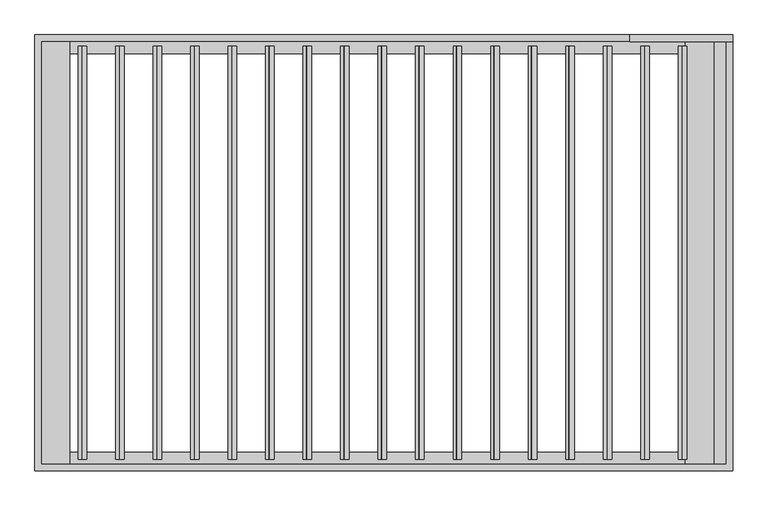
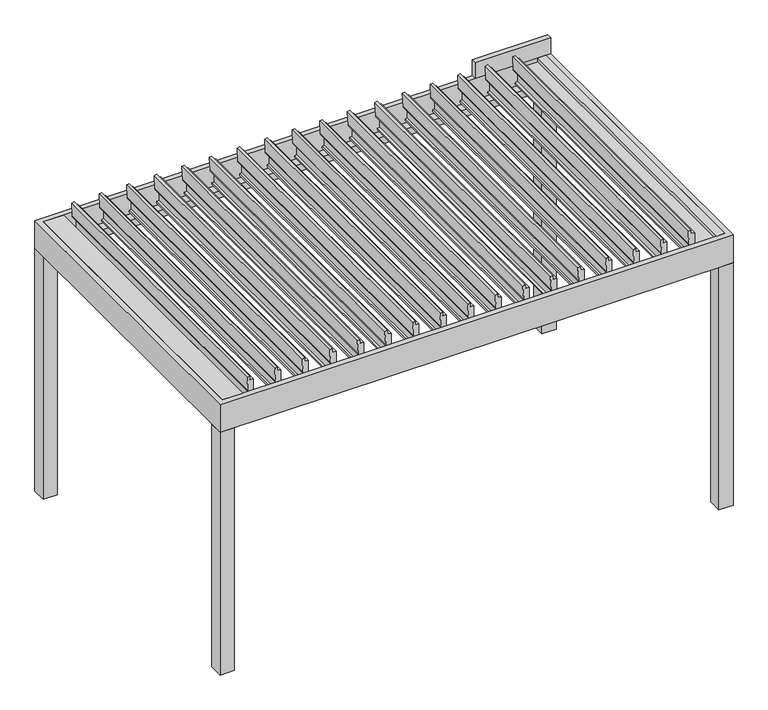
"""IFC4 building model written with IfcOpenShell, lengths in millimetres: proxy geometry, Renson_Algarve_Single : Algarve - Single."""

from ifc_helpers import new_model, si_unit, point, frame, frame_2d, origin, origin_with_axes, place, context, project, spatial, polyline, circle_curve, trimmed, segment, composite_curve, outline, extrude, faceted_brep, source, transform, mapped, element, save


def generic_models_7f1426e4(model_context):
    return source(origin(), model_context, "Body", "SolidModel", [
        extrude(outline(composite_curve([segment(polyline([(2299.449345, 1521.8120717), (2301.8694547, 1494.1500918), (2330.7047051, 1492.7650354), (2327.2673741, 1473.2709621), (2217.2702592, 1478.5545024)]), True, "CONTINUOUS"), segment(trimmed(circle_curve(frame_2d((2217.9899311, 1493.5372282)), 15.0), [point((2217.2702592, 1478.5545024))], [point((2203.2178148, 1490.9325056))], False, "CARTESIAN"), True, "CONTINUOUS"), segment(polyline([(2203.2178148, 1490.9325056), (2199.8271235, 1510.1620717), (2112.0913475, 1510.1620717), (2109.0798901, 1493.083248), (2093.8029196, 1493.8170536), (2091.3536729, 1521.8120717), (2299.449345, 1521.8120717)]), True, "CONTINUOUS")], self_intersect=False)), frame((0.0, -1185.0, 0.0), z_axis=(0.0, 1.0, 0.0), x_axis=(0.0, 0.0, 1.0)), (0.0, 0.0, 1.0), 2370.0),
        extrude(outline(composite_curve([segment(polyline([(2299.449345, 1306.8012669), (2301.8694547, 1279.139287), (2330.7047051, 1277.7542306), (2327.2673741, 1258.2601573), (2217.2702592, 1263.5436977)]), True, "CONTINUOUS"), segment(trimmed(circle_curve(frame_2d((2217.9899311, 1278.5264234)), 15.0), [point((2217.2702592, 1263.5436977))], [point((2203.2178148, 1275.9217008))], False, "CARTESIAN"), True, "CONTINUOUS"), segment(polyline([(2203.2178148, 1275.9217008), (2199.8271235, 1295.1512669), (2112.0913475, 1295.1512669), (2109.0798901, 1278.0724433), (2093.8029196, 1278.8062488), (2091.3536729, 1306.8012669), (2299.449345, 1306.8012669)]), True, "CONTINUOUS")], self_intersect=False)), frame((0.0, -1185.0, 0.0), z_axis=(0.0, 1.0, 0.0), x_axis=(0.0, 0.0, 1.0)), (0.0, 0.0, 1.0), 2370.0),
        extrude(outline(composite_curve([segment(polyline([(2299.449345, 1091.7904622), (2301.8694547, 1064.1284822), (2330.7047051, 1062.7434258), (2327.2673741, 1043.2493526), (2217.2702592, 1048.5328929)]), True, "CONTINUOUS"), segment(trimmed(circle_curve(frame_2d((2217.9899311, 1063.5156187)), 15.0), [point((2217.2702592, 1048.5328929))], [point((2203.2178148, 1060.910896))], False, "CARTESIAN"), True, "CONTINUOUS"), segment(polyline([(2203.2178148, 1060.910896), (2199.8271235, 1080.1404622), (2112.0913475, 1080.1404622), (2109.0798901, 1063.0616385), (2093.8029196, 1063.795444), (2091.3536729, 1091.7904622), (2299.449345, 1091.7904622)]), True, "CONTINUOUS")], self_intersect=False)), frame((0.0, -1185.0, 0.0), z_axis=(0.0, 1.0, 0.0), x_axis=(0.0, 0.0, 1.0)), (0.0, 0.0, 1.0), 2370.0),
        extrude(outline(composite_curve([segment(polyline([(2299.449345, 876.7796574), (2301.8694547, 849.1176774), (2330.7047051, 847.732621), (2327.2673741, 828.2385478), (2217.2702592, 833.5220881)]), True, "CONTINUOUS"), segment(trimmed(circle_curve(frame_2d((2217.9899311, 848.5048139)), 15.0), [point((2217.2702592, 833.5220881))], [point((2203.2178148, 845.9000912))], False, "CARTESIAN"), True, "CONTINUOUS"), segment(polyline([(2203.2178148, 845.9000912), (2199.8271235, 865.1296574), (2112.0913475, 865.1296574), (2109.0798901, 848.0508337), (2093.8029196, 848.7846392), (2091.3536729, 876.7796574), (2299.449345, 876.7796574)]), True, "CONTINUOUS")], self_intersect=False)), frame((0.0, -1185.0, 0.0), z_axis=(0.0, 1.0, 0.0), x_axis=(0.0, 0.0, 1.0)), (0.0, 0.0, 1.0), 2370.0),
        extrude(outline(composite_curve([segment(polyline([(2299.449345, 661.7688526), (2301.8694547, 634.1068726), (2330.7047051, 632.7218162), (2327.2673741, 613.227743), (2217.2702592, 618.5112833)]), True, "CONTINUOUS"), segment(trimmed(circle_curve(frame_2d((2217.9899311, 633.4940091)), 15.0), [point((2217.2702592, 618.5112833))], [point((2203.2178148, 630.8892864))], False, "CARTESIAN"), True, "CONTINUOUS"), segment(polyline([(2203.2178148, 630.8892864), (2199.8271235, 650.1188526), (2112.0913475, 650.1188526), (2109.0798901, 633.0400289), (2093.8029196, 633.7738344), (2091.3536729, 661.7688526), (2299.449345, 661.7688526)]), True, "CONTINUOUS")], self_intersect=False)), frame((0.0, -1185.0, 0.0), z_axis=(0.0, 1.0, 0.0), x_axis=(0.0, 0.0, 1.0)), (0.0, 0.0, 1.0), 2370.0),
        extrude(outline(composite_curve([segment(polyline([(2299.449345, 446.7580478), (2301.8694547, 419.0960679), (2330.7047051, 417.7110115), (2327.2673741, 398.2169382), (2217.2702592, 403.5004785)]), True, "CONTINUOUS"), segment(trimmed(circle_curve(frame_2d((2217.9899311, 418.4832043)), 15.0), [point((2217.2702592, 403.5004785))], [point((2203.2178148, 415.8784817))], False, "CARTESIAN"), True, "CONTINUOUS"), segment(polyline([(2203.2178148, 415.8784817), (2199.8271235, 435.1080478), (2112.0913475, 435.1080478), (2109.0798901, 418.0292241), (2093.8029196, 418.7630297), (2091.3536729, 446.7580478), (2299.449345, 446.7580478)]), True, "CONTINUOUS")], self_intersect=False)), frame((0.0, -1185.0, 0.0), z_axis=(0.0, 1.0, 0.0), x_axis=(0.0, 0.0, 1.0)), (0.0, 0.0, 1.0), 2370.0),
        extrude(outline(composite_curve([segment(polyline([(2299.449345, 231.747243), (2301.8694547, 204.0852631), (2330.7047051, 202.7002067), (2327.2673741, 183.2061334), (2217.2702592, 188.4896737)]), True, "CONTINUOUS"), segment(trimmed(circle_curve(frame_2d((2217.9899311, 203.4723995)), 15.0), [point((2217.2702592, 188.4896737))], [point((2203.2178148, 200.8676769))], False, "CARTESIAN"), True, "CONTINUOUS"), segment(polyline([(2203.2178148, 200.8676769), (2199.8271235, 220.097243), (2112.0913475, 220.097243), (2109.0798901, 203.0184194), (2093.8029196, 203.7522249), (2091.3536729, 231.747243), (2299.449345, 231.747243)]), True, "CONTINUOUS")], self_intersect=False)), frame((0.0, -1185.0, 0.0), z_axis=(0.0, 1.0, 0.0), x_axis=(0.0, 0.0, 1.0)), (0.0, 0.0, 1.0), 2370.0),
        extrude(outline(composite_curve([segment(polyline([(2299.449345, 16.7364383), (2301.8694547, -10.9255417), (2330.7047051, -12.3105981), (2327.2673741, -31.8046713), (2217.2702592, -26.521131)]), True, "CONTINUOUS"), segment(trimmed(circle_curve(frame_2d((2217.9899311, -11.5384052)), 15.0), [point((2217.2702592, -26.521131))], [point((2203.2178148, -14.1431279))], False, "CARTESIAN"), True, "CONTINUOUS"), segment(polyline([(2203.2178148, -14.1431279), (2199.8271235, 5.0864383), (2112.0913475, 5.0864383), (2109.0798901, -11.9923854), (2093.8029196, -11.2585799), (2091.3536729, 16.7364383), (2299.449345, 16.7364383)]), True, "CONTINUOUS")], self_intersect=False)), frame((0.0, -1185.0, 0.0), z_axis=(0.0, 1.0, 0.0), x_axis=(0.0, 0.0, 1.0)), (0.0, 0.0, 1.0), 2370.0),
        extrude(outline(composite_curve([segment(polyline([(2299.449345, -198.2743665), (2301.8694547, -225.9363465), (2330.7047051, -227.3214029), (2327.2673741, -246.8154761), (2217.2702592, -241.5319358)]), True, "CONTINUOUS"), segment(trimmed(circle_curve(frame_2d((2217.9899311, -226.54921)), 15.0), [point((2217.2702592, -241.5319358))], [point((2203.2178148, -229.1539327))], False, "CARTESIAN"), True, "CONTINUOUS"), segment(polyline([(2203.2178148, -229.1539327), (2199.8271235, -209.9243665), (2112.0913475, -209.9243665), (2109.0798901, -227.0031902), (2093.8029196, -226.2693847), (2091.3536729, -198.2743665), (2299.449345, -198.2743665)]), True, "CONTINUOUS")], self_intersect=False)), frame((0.0, -1185.0, 0.0), z_axis=(0.0, 1.0, 0.0), x_axis=(0.0, 0.0, 1.0)), (0.0, 0.0, 1.0), 2370.0),
        extrude(outline(composite_curve([segment(polyline([(2299.449345, -413.2851713), (2301.8694547, -440.9471513), (2330.7047051, -442.3322077), (2327.2673741, -461.8262809), (2217.2702592, -456.5427406)]), True, "CONTINUOUS"), segment(trimmed(circle_curve(frame_2d((2217.9899311, -441.5600148)), 15.0), [point((2217.2702592, -456.5427406))], [point((2203.2178148, -444.1647375))], False, "CARTESIAN"), True, "CONTINUOUS"), segment(polyline([(2203.2178148, -444.1647375), (2199.8271235, -424.9351713), (2112.0913475, -424.9351713), (2109.0798901, -442.013995), (2093.8029196, -441.2801895), (2091.3536729, -413.2851713), (2299.449345, -413.2851713)]), True, "CONTINUOUS")], self_intersect=False)), frame((0.0, -1185.0, 0.0), z_axis=(0.0, 1.0, 0.0), x_axis=(0.0, 0.0, 1.0)), (0.0, 0.0, 1.0), 2370.0),
        extrude(outline(composite_curve([segment(polyline([(2299.449345, -628.2959761), (2301.8694547, -655.9579561), (2330.7047051, -657.3430125), (2327.2673741, -676.8370857), (2217.2702592, -671.5535454)]), True, "CONTINUOUS"), segment(trimmed(circle_curve(frame_2d((2217.9899311, -656.5708196)), 15.0), [point((2217.2702592, -671.5535454))], [point((2203.2178148, -659.1755423))], False, "CARTESIAN"), True, "CONTINUOUS"), segment(polyline([(2203.2178148, -659.1755423), (2199.8271235, -639.9459761), (2112.0913475, -639.9459761), (2109.0798901, -657.0247998), (2093.8029196, -656.2909943), (2091.3536729, -628.2959761), (2299.449345, -628.2959761)]), True, "CONTINUOUS")], self_intersect=False)), frame((0.0, -1185.0, 0.0), z_axis=(0.0, 1.0, 0.0), x_axis=(0.0, 0.0, 1.0)), (0.0, 0.0, 1.0), 2370.0),
        extrude(outline(composite_curve([segment(polyline([(2299.449345, -843.3067809), (2301.8694547, -870.9687608), (2330.7047051, -872.3538172), (2327.2673741, -891.8478905), (2217.2702592, -886.5643502)]), True, "CONTINUOUS"), segment(trimmed(circle_curve(frame_2d((2217.9899311, -871.5816244)), 15.0), [point((2217.2702592, -886.5643502))], [point((2203.2178148, -874.186347))], False, "CARTESIAN"), True, "CONTINUOUS"), segment(polyline([(2203.2178148, -874.186347), (2199.8271235, -854.9567809), (2112.0913475, -854.9567809), (2109.0798901, -872.0356046), (2093.8029196, -871.301799), (2091.3536729, -843.3067809), (2299.449345, -843.3067809)]), True, "CONTINUOUS")], self_intersect=False)), frame((0.0, -1185.0, 0.0), z_axis=(0.0, 1.0, 0.0), x_axis=(0.0, 0.0, 1.0)), (0.0, 0.0, 1.0), 2370.0),
        extrude(outline(composite_curve([segment(polyline([(2299.449345, -1058.3175857), (2301.8694547, -1085.9795656), (2330.7047051, -1087.364622), (2327.2673741, -1106.8586953), (2217.2702592, -1101.5751549)]), True, "CONTINUOUS"), segment(trimmed(circle_curve(frame_2d((2217.9899311, -1086.5924291)), 15.0), [point((2217.2702592, -1101.5751549))], [point((2203.2178148, -1089.1971518))], False, "CARTESIAN"), True, "CONTINUOUS"), segment(polyline([(2203.2178148, -1089.1971518), (2199.8271235, -1069.9675857), (2112.0913475, -1069.9675857), (2109.0798901, -1087.0464093), (2093.8029196, -1086.3126038), (2091.3536729, -1058.3175857), (2299.449345, -1058.3175857)]), True, "CONTINUOUS")], self_intersect=False)), frame((0.0, -1185.0, 0.0), z_axis=(0.0, 1.0, 0.0), x_axis=(0.0, 0.0, 1.0)), (0.0, 0.0, 1.0), 2370.0),
        extrude(outline(composite_curve([segment(polyline([(2299.449345, -1273.3283904), (2301.8694547, -1300.9903704), (2330.7047051, -1302.3754268), (2327.2673741, -1321.8695), (2217.2702592, -1316.5859597)]), True, "CONTINUOUS"), segment(trimmed(circle_curve(frame_2d((2217.9899311, -1301.6032339)), 15.0), [point((2217.2702592, -1316.5859597))], [point((2203.2178148, -1304.2079566))], False, "CARTESIAN"), True, "CONTINUOUS"), segment(polyline([(2203.2178148, -1304.2079566), (2199.8271235, -1284.9783904), (2112.0913475, -1284.9783904), (2109.0798901, -1302.0572141), (2093.8029196, -1301.3234086), (2091.3536729, -1273.3283904), (2299.449345, -1273.3283904)]), True, "CONTINUOUS")], self_intersect=False)), frame((0.0, -1185.0, 0.0), z_axis=(0.0, 1.0, 0.0), x_axis=(0.0, 0.0, 1.0)), (0.0, 0.0, 1.0), 2370.0),
        extrude(outline(composite_curve([segment(polyline([(2299.449345, -1488.3391952), (2301.8694547, -1516.0011752), (2330.7047051, -1517.3862316), (2327.2673741, -1536.8803048), (2217.2702592, -1531.5967645)]), True, "CONTINUOUS"), segment(trimmed(circle_curve(frame_2d((2217.9899311, -1516.6140387)), 15.0), [point((2217.2702592, -1531.5967645))], [point((2203.2178148, -1519.2187614))], False, "CARTESIAN"), True, "CONTINUOUS"), segment(polyline([(2203.2178148, -1519.2187614), (2199.8271235, -1499.9891952), (2112.0913475, -1499.9891952), (2109.0798901, -1517.0680189), (2093.8029196, -1516.3342134), (2091.3536729, -1488.3391952), (2299.449345, -1488.3391952)]), True, "CONTINUOUS")], self_intersect=False)), frame((0.0, -1185.0, 0.0), z_axis=(0.0, 1.0, 0.0), x_axis=(0.0, 0.0, 1.0)), (0.0, 0.0, 1.0), 2370.0),
        extrude(outline(composite_curve([segment(polyline([(2299.449345, 1736.8228765), (2301.8694547, 1709.1608965), (2330.7047051, 1707.7758401), (2327.2673741, 1688.2817669), (2217.2702592, 1693.5653072)]), True, "CONTINUOUS"), segment(trimmed(circle_curve(frame_2d((2217.9899311, 1708.548033)), 15.0), [point((2217.2702592, 1693.5653072))], [point((2203.2178148, 1705.9433103))], False, "CARTESIAN"), True, "CONTINUOUS"), segment(polyline([(2203.2178148, 1705.9433103), (2199.8271235, 1725.1728765), (2112.0913475, 1725.1728765), (2109.0798901, 1708.0940528), (2093.8029196, 1708.8278583), (2091.3536729, 1736.8228765), (2299.449345, 1736.8228765)]), True, "CONTINUOUS")], self_intersect=False)), frame((0.0, -1185.0, 0.0), z_axis=(0.0, 1.0, 0.0), x_axis=(0.0, 0.0, 1.0)), (0.0, 0.0, 1.0), 2370.0),
        extrude(outline(composite_curve([segment(polyline([(2299.449345, -1703.35), (2301.8694547, -1731.01198), (2330.7047051, -1732.3970364), (2327.2673741, -1751.8911096), (2217.2702592, -1746.6075693)]), True, "CONTINUOUS"), segment(trimmed(circle_curve(frame_2d((2217.9899311, -1731.6248435)), 15.0), [point((2217.2702592, -1746.6075693))], [point((2203.2178148, -1734.2295662))], False, "CARTESIAN"), True, "CONTINUOUS"), segment(polyline([(2203.2178148, -1734.2295662), (2199.8271235, -1715.0), (2112.0913475, -1715.0), (2109.0798901, -1732.0788237), (2093.8029196, -1731.3450182), (2091.3536729, -1703.35), (2299.449345, -1703.35)]), True, "CONTINUOUS")], self_intersect=False)), frame((0.0, -1185.0, 0.0), z_axis=(0.0, 1.0, 0.0), x_axis=(0.0, 0.0, 1.0)), (0.0, 0.0, 1.0), 2370.0),
        extrude(outline(polyline([(2168.0, 1960.0), (2230.0, 1960.0), (2230.0, 1896.0), (2198.0, 1896.0), (2198.0, 1730.0), (2168.0, 1730.0), (2168.0, 1960.0)])), frame((0.0, -1210.0, 0.0), z_axis=(0.0, 1.0, 0.0), x_axis=(0.0, 0.0, 1.0)), (0.0, 0.0, 1.0), 2420.0),
        extrude(outline(polyline([(2230.0, -1800.0), (2230.0, -1960.0), (2186.0, -1960.0), (2186.0, -1827.3193336), (2219.1716603, -1824.4171894), (2220.344502, -1800.0), (2230.0, -1800.0)])), frame((0.0, -1210.0, 0.0), z_axis=(0.0, 1.0, 0.0), x_axis=(0.0, 0.0, 1.0)), (0.0, 0.0, 1.0), 2420.0),
        faceted_brep([(1890.0, 1140.0, 2057.0), (1890.0, 1140.0, 2000.0), (1890.0, -1140.0, 2000.0), (1890.0, -1140.0, 2057.0), (2000.0, 1250.0, 2000.0), (2000.0, 1250.0, 2230.0), (2000.0, -1250.0, 2230.0), (2000.0, -1250.0, 2000.0), (1960.0, 1210.0, 2230.0), (1960.0, 1210.0, 2057.0), (1960.0, -1210.0, 2057.0), (1960.0, -1210.0, 2230.0), (-1890.0, -1140.0, 2000.0), (-1890.0, -1140.0, 2057.0), (-2000.0, -1250.0, 2230.0), (-2000.0, -1250.0, 2000.0), (-1960.0, -1210.0, 2057.0), (-1960.0, -1210.0, 2230.0), (-1890.0, 1140.0, 2000.0), (-1890.0, 1140.0, 2057.0), (-2000.0, 1250.0, 2230.0), (-2000.0, 1250.0, 2000.0), (-1960.0, 1210.0, 2057.0), (-1960.0, 1210.0, 2230.0)], [[[0, 1, 2, 3]], [[4, 5, 6, 7]], [[8, 9, 10, 11]], [[3, 2, 12, 13]], [[7, 6, 14, 15]], [[11, 10, 16, 17]], [[13, 12, 18, 19]], [[15, 14, 20, 21]], [[17, 16, 22, 23]], [[9, 22, 16, 10], [3, 13, 19, 0]], [[19, 18, 1, 0]], [[7, 15, 21, 4], [1, 18, 12, 2]], [[21, 20, 5, 4]], [[5, 20, 14, 6], [11, 17, 23, 8]], [[23, 22, 9, 8]]]),
        extrude(outline(polyline([(2000.0, 1250.0), (2000.0, 1140.0), (1890.0, 1140.0), (1890.0, 1250.0), (2000.0, 1250.0)])), origin_with_axes(), (0.0, 0.0, 1.0), 2000.0),
        extrude(outline(polyline([(2000.0, -1140.0), (2000.0, -1250.0), (1890.0, -1250.0), (1890.0, -1140.0), (2000.0, -1140.0)])), origin_with_axes(), (0.0, 0.0, 1.0), 2000.0),
        extrude(outline(polyline([(-1890.0, -1140.0), (-1890.0, -1250.0), (-2000.0, -1250.0), (-2000.0, -1140.0), (-1890.0, -1140.0)])), origin_with_axes(), (0.0, 0.0, 1.0), 2000.0),
        extrude(outline(polyline([(-1890.0, 1250.0), (-1890.0, 1140.0), (-2000.0, 1140.0), (-2000.0, 1250.0), (-1890.0, 1250.0)])), origin_with_axes(), (0.0, 0.0, 1.0), 2000.0),
        extrude(outline(polyline([(2000.0, 1250.0), (2000.0, 1210.0), (1410.0, 1210.0), (1410.0, 1250.0), (2000.0, 1250.0)])), frame((0.0, 0.0, 2230.0), z_axis=(0.0, 0.0, 1.0), x_axis=(1.0, 0.0, 0.0)), (0.0, 0.0, 1.0), 130.0),
    ])


if __name__ == "__main__":
    model = new_model("IFC4")
    model_context = context("Model", 3, world=origin())
    ifc_project = project(units=[si_unit("LENGTHUNIT", "METRE", prefix="MILLI")], contexts=[model_context])
    site = spatial("IfcSite", under=ifc_project)
    building = spatial("IfcBuilding", under=site)
    placement = place(None, origin())
    generic_models_shape = generic_models_7f1426e4(model_context)
    element("IfcBuildingElementProxy", 1, Name="Renson_Algarve_Single : Algarve - Single", ObjectType="Renson_Algarve_Single : Algarve - Single", at=placement, inside=building, context=model_context, shape_type="MappedRepresentation", body=[
        mapped(generic_models_shape, transform((0.0, 0.0, 0.0), x_axis=(1.0, 0.0, 0.0), y_axis=(0.0, 1.0, 0.0), z_axis=(0.0, 0.0, 1.0))),
    ])
    save(model, "model.ifc")
